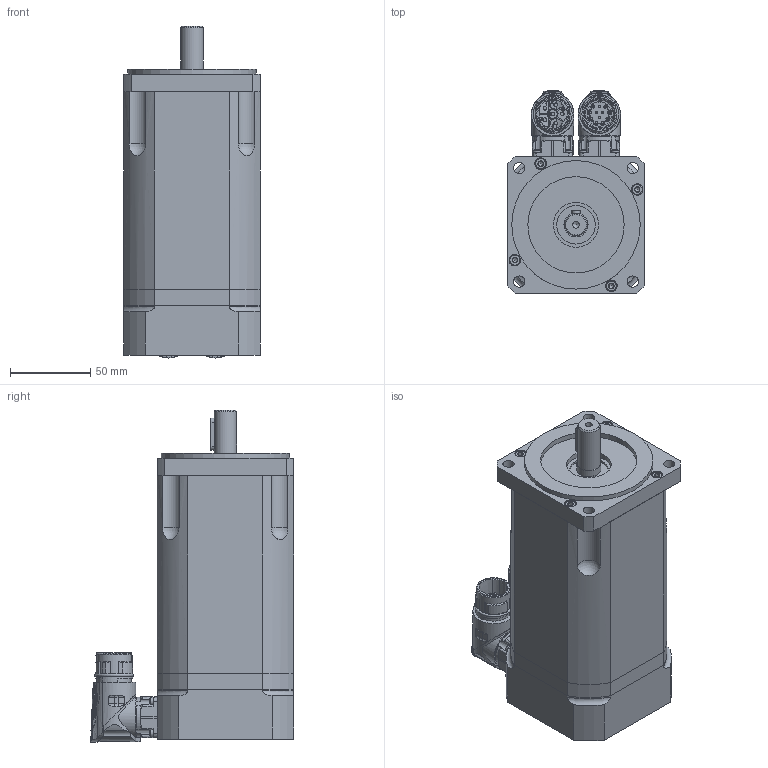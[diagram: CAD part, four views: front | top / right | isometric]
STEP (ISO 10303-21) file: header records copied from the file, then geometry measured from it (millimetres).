
FILE_DESCRIPTION(/* description */ (''),/* implementation_level */ '2;1');
FILE_NAME(/* name */ 'C:\Users\Public\Documents\Autodesk\Inventor LT 2014\Workspace\Motori Sito WEB\TG_3\STEP_DSM5_3x\DSM5_33_x097.stp',/* time_stamp */ '2021-03-31T14:11:56+02:00',/* author */ ('marcor'),/* organization */ (''),/* preprocessor_version */ 'ST-DEVELOPER v15.2',/* originating_system */ 'Autodesk Inventor LT ',/* authorisation */ '');
FILE_SCHEMA (('AUTOMOTIVE_DESIGN { 1 0 10303 214 3 1 1 }'));
Products named in the file (1): DSM5_33_x097
Bounding box: 85 x 126.5 x 206.81 mm (x, y, z)
Volume: 1232847 mm3; surface area: 139439.2 mm2
Topology: 16 solids, 26 shells, 1426 faces, 3697 edges, 2459 vertices
Faces by surface type: plane 523, cylinder 436, cone 247, bspline 113, torus 75, sphere 32
Full cylindrical faces by diameter (mm): 1.2 x12, 2.224 x8, 2.233 x6, 2.5 x8, 2.88 x8, 3.242 x12, 3.26 x8, 4 x12, 4.134 x1, 4.5 x14, 4.8 x8, 5.5 x3, 5.9 x2, 7 x16, 7.2 x8, 7.5 x4, 13.8 x1, 14 x1, 14.98 x1, 15.2 x1, 17.4 x3, 18 x1, 19.8 x1, 21.15 x4, 21.6 x1, 21.653 x2, 24 x1, 24.3 x2, 28 x1, 35 x2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
Entity records: 50570 total; most frequent: CARTESIAN_POINT 17558, ORIENTED_EDGE 6526, DIRECTION 6079, EDGE_CURVE 3263, AXIS2_PLACEMENT_3D 2496, VERTEX_POINT 2349, EDGE_LOOP 1944, ADVANCED_FACE 1426
